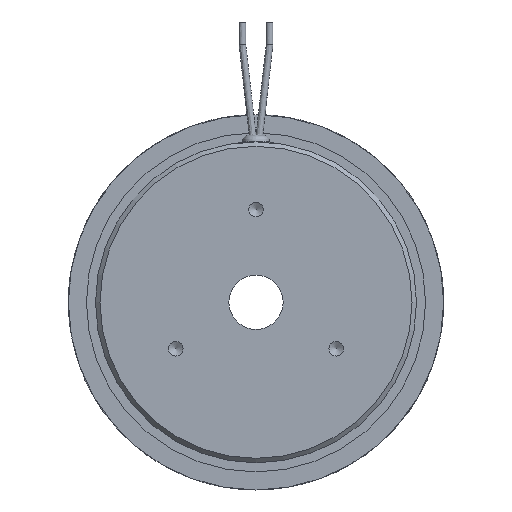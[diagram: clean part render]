
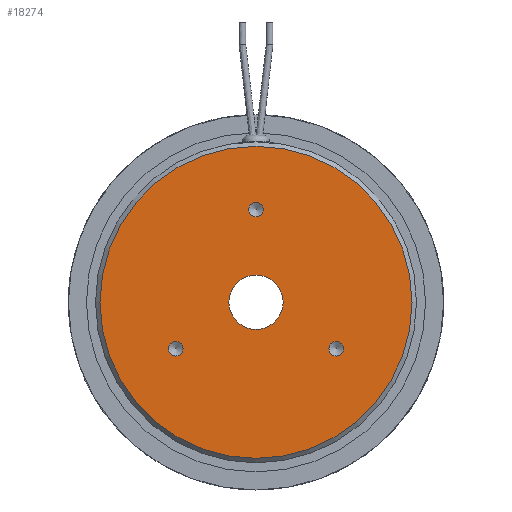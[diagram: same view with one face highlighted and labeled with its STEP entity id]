
A CAD part, left-side view. The second image highlights one B-rep face of the part: STEP entity #18274.
In plain terms, the highlighted planar face has unit normal (-1, 0, 0).
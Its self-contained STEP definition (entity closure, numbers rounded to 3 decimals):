
#312=FACE_BOUND('',#2175,.T.);
#313=FACE_BOUND('',#2176,.T.);
#314=FACE_BOUND('',#2177,.T.);
#315=FACE_BOUND('',#2178,.T.);
#543=PLANE('',#20068);
#1156=FACE_OUTER_BOUND('',#2174,.T.);
#2174=EDGE_LOOP('',(#14054));
#2175=EDGE_LOOP('',(#14055));
#2176=EDGE_LOOP('',(#14056));
#2177=EDGE_LOOP('',(#14057));
#2178=EDGE_LOOP('',(#14058));
#5756=CIRCLE('',#20067,34.5);
#5757=CIRCLE('',#20069,6.);
#5758=CIRCLE('',#20070,1.621);
#5759=CIRCLE('',#20071,1.621);
#5760=CIRCLE('',#20072,1.621);
#7451=VERTEX_POINT('',#31327);
#7452=VERTEX_POINT('',#31331);
#7453=VERTEX_POINT('',#31333);
#7454=VERTEX_POINT('',#31335);
#7455=VERTEX_POINT('',#31337);
#9783=EDGE_CURVE('',#7451,#7451,#5756,.T.);
#9784=EDGE_CURVE('',#7452,#7452,#5757,.T.);
#9785=EDGE_CURVE('',#7453,#7453,#5758,.T.);
#9786=EDGE_CURVE('',#7454,#7454,#5759,.T.);
#9787=EDGE_CURVE('',#7455,#7455,#5760,.T.);
#14054=ORIENTED_EDGE('',*,*,#9783,.F.);
#14055=ORIENTED_EDGE('',*,*,#9784,.T.);
#14056=ORIENTED_EDGE('',*,*,#9785,.T.);
#14057=ORIENTED_EDGE('',*,*,#9786,.T.);
#14058=ORIENTED_EDGE('',*,*,#9787,.T.);
#18274=ADVANCED_FACE('',(#1156,#312,#313,#314,#315),#543,.T.);
#20067=AXIS2_PLACEMENT_3D('',#31329,#24504,#24505);
#20068=AXIS2_PLACEMENT_3D('',#31330,#24506,#24507);
#20069=AXIS2_PLACEMENT_3D('',#31332,#24508,#24509);
#20070=AXIS2_PLACEMENT_3D('',#31334,#24510,#24511);
#20071=AXIS2_PLACEMENT_3D('',#31336,#24512,#24513);
#20072=AXIS2_PLACEMENT_3D('',#31338,#24514,#24515);
#24504=DIRECTION('center_axis',(1.,0.,0.));
#24505=DIRECTION('ref_axis',(0.,-1.,0.));
#24506=DIRECTION('center_axis',(-1.,0.,0.));
#24507=DIRECTION('ref_axis',(0.,0.,
1.));
#24508=DIRECTION('center_axis',(1.,0.,0.));
#24509=DIRECTION('ref_axis',(0.,0.,-1.));
#24510=DIRECTION('center_axis',(1.,0.,0.));
#24511=DIRECTION('ref_axis',(0.,0.,
1.));
#24512=DIRECTION('center_axis',(1.,0.,0.));
#24513=DIRECTION('ref_axis',(0.,0.,
1.));
#24514=DIRECTION('center_axis',(1.,0.,0.));
#24515=DIRECTION('ref_axis',(0.,0.,
1.));
#31327=CARTESIAN_POINT('',(-14.,34.5,0.));
#31329=CARTESIAN_POINT('Origin',(-14.,0.,0.));
#31330=CARTESIAN_POINT('Origin',(-14.,35.5,0.));
#31331=CARTESIAN_POINT('',(-14.,-6.,0.));
#31332=CARTESIAN_POINT('Origin',(-14.,0.,0.));
#31333=CARTESIAN_POINT('',(-14.,0.,18.879));
#31334=CARTESIAN_POINT('Origin',(-14.,0.,20.5));
#31335=CARTESIAN_POINT('',(-14.,17.754,-11.871));
#31336=CARTESIAN_POINT('Origin',(-14.,17.754,-10.25));
#31337=CARTESIAN_POINT('',(-14.,-17.754,-11.871));
#31338=CARTESIAN_POINT('Origin',(-14.,-17.754,-10.25));
